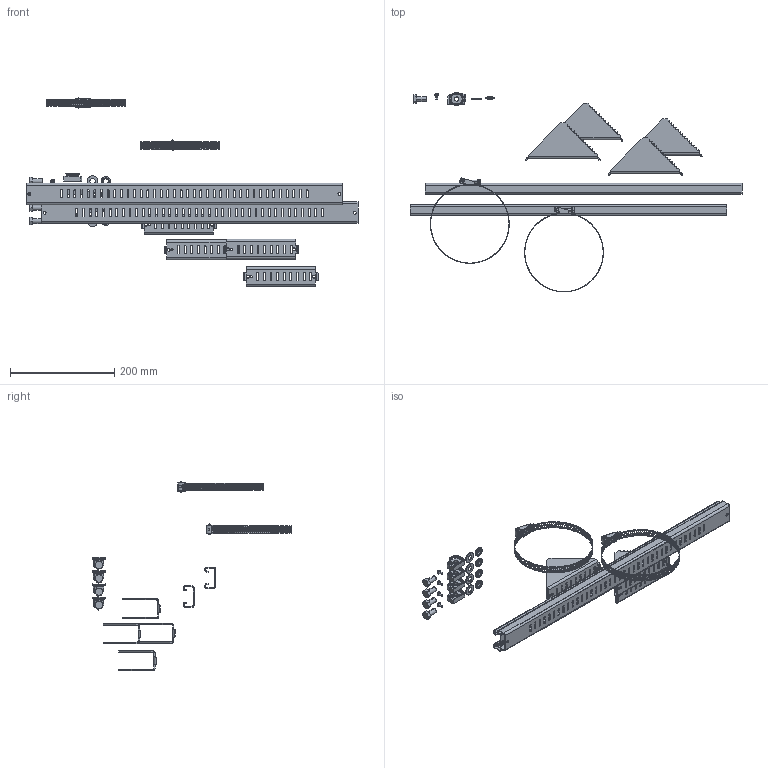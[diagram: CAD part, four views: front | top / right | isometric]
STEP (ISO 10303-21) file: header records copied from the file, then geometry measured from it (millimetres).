
FILE_DESCRIPTION (( 'STEP AP203' ), '1' );
FILE_NAME ('cpmk24.STEP', '2018-08-16T16:07:48', ( '' ), ( '' ), 'SwSTEP 2.0', 'SolidWorks 2016', '' );
FILE_SCHEMA (( 'CONFIG_CONTROL_DESIGN' ));
Length unit declared in the file: inch
Products named in the file (10): 99401060_HBOLT 0.3750-16x1x1-C; 99411494_11581133; cpmk24; 64145001; 22101007; 11258585; 11258604; 87793571; 10130004; 87780266
Assembly tree (29 placements, depth 3):
  cpmk24
    11258585  x4
    11258604  x2
    64145001  x2
    87793571
      99401060_HBOLT 0.3750-16x1x1-C  x4
      99411494_11581133  x4
      10130004  x4
      22101007  x4
      87780266  x4
Bounding box: 635.61 x 382.19 x 362.34 mm (x, y, z)
Volume: 391549.6 mm3; surface area: 409679.2 mm2
Topology: 38 solids, 38 shells, 3486 faces, 9722 edges, 6280 vertices
Faces by surface type: plane 1698, cylinder 1592, cone 92, torus 64, bspline 24, sphere 16
Entity records: 54648 total; most frequent: CARTESIAN_POINT 18320, ORIENTED_EDGE 7998, DIRECTION 6200, EDGE_CURVE 3999, VERTEX_POINT 2606, AXIS2_PLACEMENT_3D 2126, VECTOR 1948, LINE 1948
